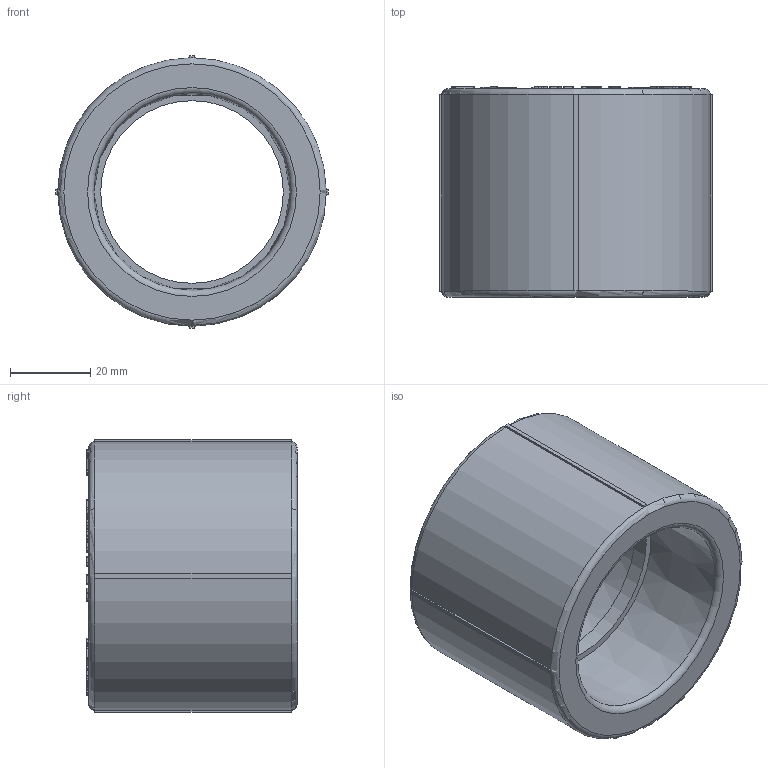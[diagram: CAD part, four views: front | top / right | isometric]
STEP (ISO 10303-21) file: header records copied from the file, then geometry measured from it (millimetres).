
FILE_DESCRIPTION(('STEP AP203'), '1');
FILE_NAME('ÂÐ.713151.005 - VTp.703.0.050', '', ('UNSPECIFIED'), ('UNSPECIFIED'), 'C3D Converter', 'C3D Toolkit', '');
FILE_SCHEMA(('CONFIG_CONTROL_DESIGN'));
Length unit declared in the file: millimetre
Products named in the file (1): ВР.713151.005
Bounding box: 68 x 52.5 x 68 mm (x, y, z)
Volume: 85891.4 mm3; surface area: 22596.9 mm2
Topology: 1 solids, 1 shells, 557 faces, 1551 edges, 1028 vertices
Faces by surface type: extrusion 313, plane 233, cylinder 5, torus 4, cone 2
Full cylindrical faces by diameter (mm): 45.6 x1
Entity records: 18104 total; most frequent: CARTESIAN_POINT 5008, ORIENTED_EDGE 3088, DIRECTION 1749, EDGE_CURVE 1544, VECTOR 1203, VERTEX_POINT 1028, B_SPLINE_CURVE_WITH_KNOTS 939, LINE 890
